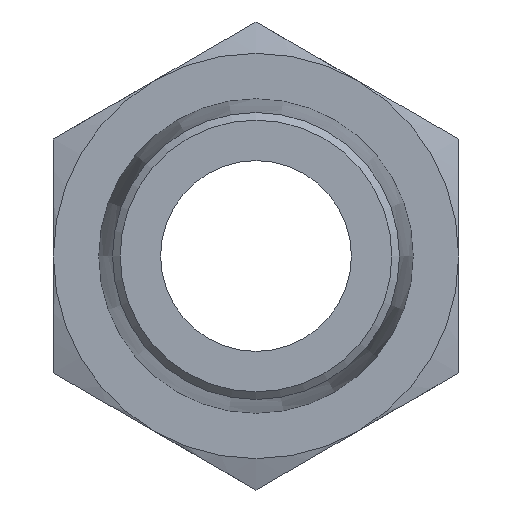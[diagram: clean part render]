
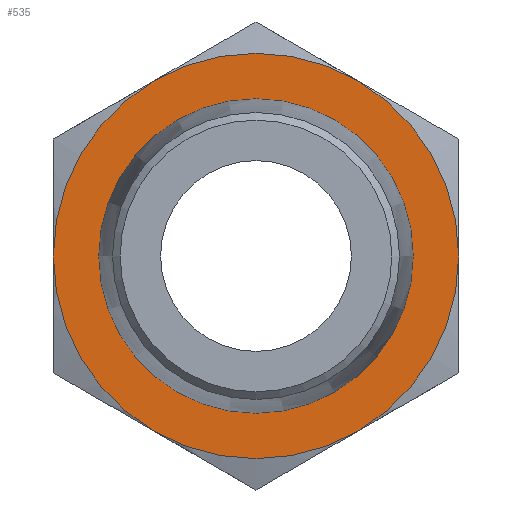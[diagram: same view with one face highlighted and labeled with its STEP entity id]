
A CAD part, front view. The second image highlights one B-rep face of the part: STEP entity #535.
In plain terms, the highlighted planar face has unit normal (0, -1, 0).
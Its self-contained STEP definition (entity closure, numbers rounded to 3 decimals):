
#62=FACE_BOUND('',#158,.T.);
#76=PLANE('',#629);
#113=FACE_OUTER_BOUND('',#157,.T.);
#157=EDGE_LOOP('',(#485,#486,#487,#488,#489,#490));
#158=EDGE_LOOP('',(#491));
#212=CIRCLE('',#597,6.594);
#213=CIRCLE('',#599,8.5);
#214=CIRCLE('',#601,8.5);
#215=CIRCLE('',#603,8.5);
#216=CIRCLE('',#605,8.5);
#217=CIRCLE('',#607,8.5);
#218=CIRCLE('',#609,8.5);
#245=VERTEX_POINT('',#858);
#247=VERTEX_POINT('',#863);
#248=VERTEX_POINT('',#867);
#250=VERTEX_POINT('',#874);
#252=VERTEX_POINT('',#884);
#254=VERTEX_POINT('',#897);
#256=VERTEX_POINT('',#907);
#300=EDGE_CURVE('',#245,#245,#212,.T.);
#304=EDGE_CURVE('',#247,#248,#213,.T.);
#307=EDGE_CURVE('',#250,#247,#214,.T.);
#310=EDGE_CURVE('',#252,#250,#215,.T.);
#312=EDGE_CURVE('',#254,#252,#216,.T.);
#315=EDGE_CURVE('',#256,#254,#217,.T.);
#318=EDGE_CURVE('',#248,#256,#218,.T.);
#485=ORIENTED_EDGE('',*,*,#318,.T.);
#486=ORIENTED_EDGE('',*,*,#315,.T.);
#487=ORIENTED_EDGE('',*,*,#312,.T.);
#488=ORIENTED_EDGE('',*,*,#310,.T.);
#489=ORIENTED_EDGE('',*,*,#307,.T.);
#490=ORIENTED_EDGE('',*,*,#304,.T.);
#491=ORIENTED_EDGE('',*,*,#300,.T.);
#535=ADVANCED_FACE('',(#113,#62),#76,.F.);
#597=AXIS2_PLACEMENT_3D('',#859,#717,#718);
#599=AXIS2_PLACEMENT_3D('',#871,#722,#723);
#601=AXIS2_PLACEMENT_3D('',#881,#726,#727);
#603=AXIS2_PLACEMENT_3D('',#891,#730,#731);
#605=AXIS2_PLACEMENT_3D('',#898,#734,#735);
#607=AXIS2_PLACEMENT_3D('',#908,#738,#739);
#609=AXIS2_PLACEMENT_3D('',#917,#742,#743);
#629=AXIS2_PLACEMENT_3D('',#994,#788,#789);
#717=DIRECTION('center_axis',(0.,1.,0.));
#718=DIRECTION('ref_axis',(1.,0.,0.));
#722=DIRECTION('center_axis',(0.,-1.,0.));
#723=DIRECTION('ref_axis',(1.,0.,0.));
#726=DIRECTION('center_axis',(0.,-1.,0.));
#727=DIRECTION('ref_axis',(1.,0.,0.));
#730=DIRECTION('center_axis',(0.,-1.,0.));
#731=DIRECTION('ref_axis',(1.,0.,0.));
#734=DIRECTION('center_axis',(0.,-1.,0.));
#735=DIRECTION('ref_axis',(1.,0.,0.));
#738=DIRECTION('center_axis',(0.,-1.,0.));
#739=DIRECTION('ref_axis',(1.,0.,0.));
#742=DIRECTION('center_axis',(0.,-1.,0.));
#743=DIRECTION('ref_axis',(1.,0.,0.));
#788=DIRECTION('center_axis',(0.,1.,0.));
#789=DIRECTION('ref_axis',(0.,0.,1.));
#858=CARTESIAN_POINT('',(-6.594,0.,0.));
#859=CARTESIAN_POINT('Origin',(0.,0.,0.));
#863=CARTESIAN_POINT('',(-4.25,0.,7.361));
#867=CARTESIAN_POINT('',(-8.5,0.,0.));
#871=CARTESIAN_POINT('Origin',(0.,0.,0.));
#874=CARTESIAN_POINT('',(4.25,0.,7.361));
#881=CARTESIAN_POINT('Origin',(0.,0.,0.));
#884=CARTESIAN_POINT('',(8.5,0.,0.));
#891=CARTESIAN_POINT('Origin',(0.,0.,0.));
#897=CARTESIAN_POINT('',(4.25,0.,-7.361));
#898=CARTESIAN_POINT('Origin',(0.,0.,0.));
#907=CARTESIAN_POINT('',(-4.25,0.,-7.361));
#908=CARTESIAN_POINT('Origin',(0.,0.,0.));
#917=CARTESIAN_POINT('Origin',(0.,0.,0.));
#994=CARTESIAN_POINT('Origin',(0.,0.,0.));
